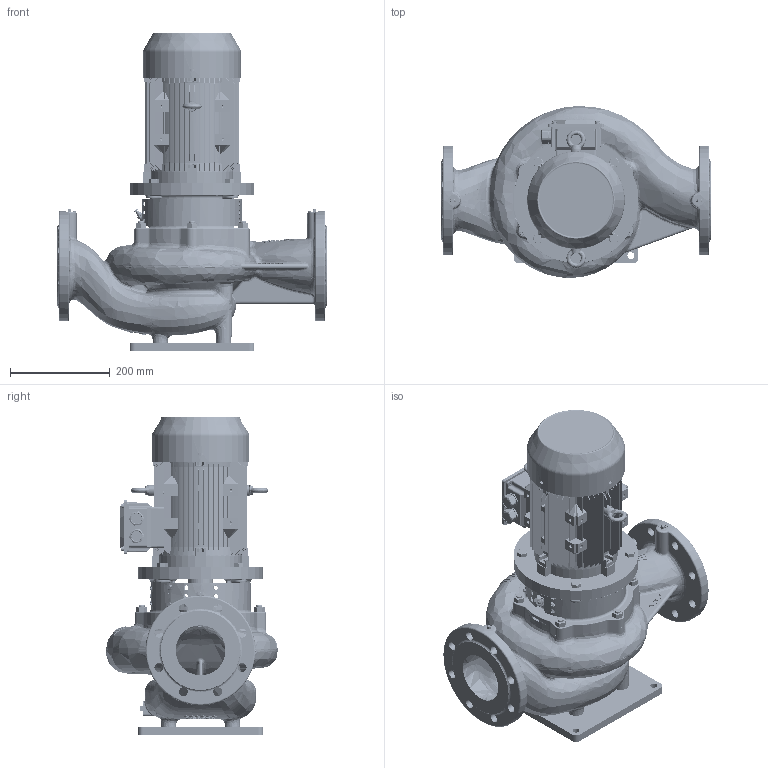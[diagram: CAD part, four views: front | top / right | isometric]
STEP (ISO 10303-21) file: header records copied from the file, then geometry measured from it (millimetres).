
FILE_DESCRIPTION((''),'2;1');
FILE_NAME('494513_ASM','2026-08-12T10:29:52',('brhe'),(''),'CREO PARAMETRIC BY PTC INC, 2023424','CREO PARAMETRIC BY PTC INC, 2023424','');
FILE_SCHEMA(('CONFIG_CONTROL_DESIGN'));
Products named in the file (34): 528542; 528470; 528180; 760085; 700225; 704063; 2039311; E41376; 1833898; 566422; 3100-040AA116; 3116-000AA116; E42637_1; E42637_2; E42637_AF2_ASM; 692823_AF0_ASM; 114811; 700365; 658300_ASM; 115646; 115621; 692812_ASM; 565660; 708791; 115635; 115648_AF0; 720488; 708002; 700306; 703239; 692816_ASM; 704390; 852200; 494513_ASM
Assembly tree (59 placements, depth 4):
  494513_ASM
    692823_AF0_ASM
      528542
      528470  x2
      528180
      760085
      700225  x6
      704063  x6
      2039311
      E41376
      1833898
      566422
      3100-040AA116
      3116-000AA116
      E42637_AF2_ASM
        E42637_1
        E42637_2
    658300_ASM
      114811
      700365  x4
    692816_ASM
      692812_ASM
        115646
        115621
      565660
      708791  x4
      115635
      115648_AF0
      720488  x4
      708002  x3
      700306  x3
      703239  x2
    704390  x2
    852200
Bounding box: 540 x 343.33 x 637.48 mm (x, y, z)
Volume: 13853417.6 mm3; surface area: 2554868.9 mm2
Topology: 72 solids, 112 shells, 5633 faces, 14795 edges, 9481 vertices
Faces by surface type: plane 2386, cylinder 1184, bspline 714, cone 567, extrusion 519, torus 241, sphere 18, revolution 4
Entity records: 310389 total; most frequent: CARTESIAN_POINT 188412, ORIENTED_EDGE 27472, DIRECTION 21531, EDGE_CURVE 13819, VERTEX_POINT 8929, AXIS2_PLACEMENT_3D 7694, VECTOR 6139, EDGE_LOOP 5670
